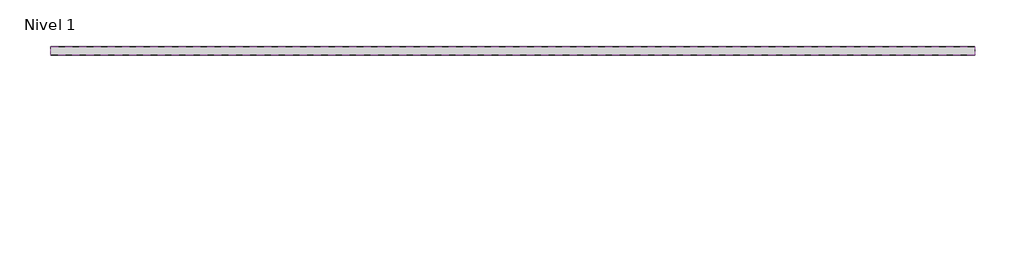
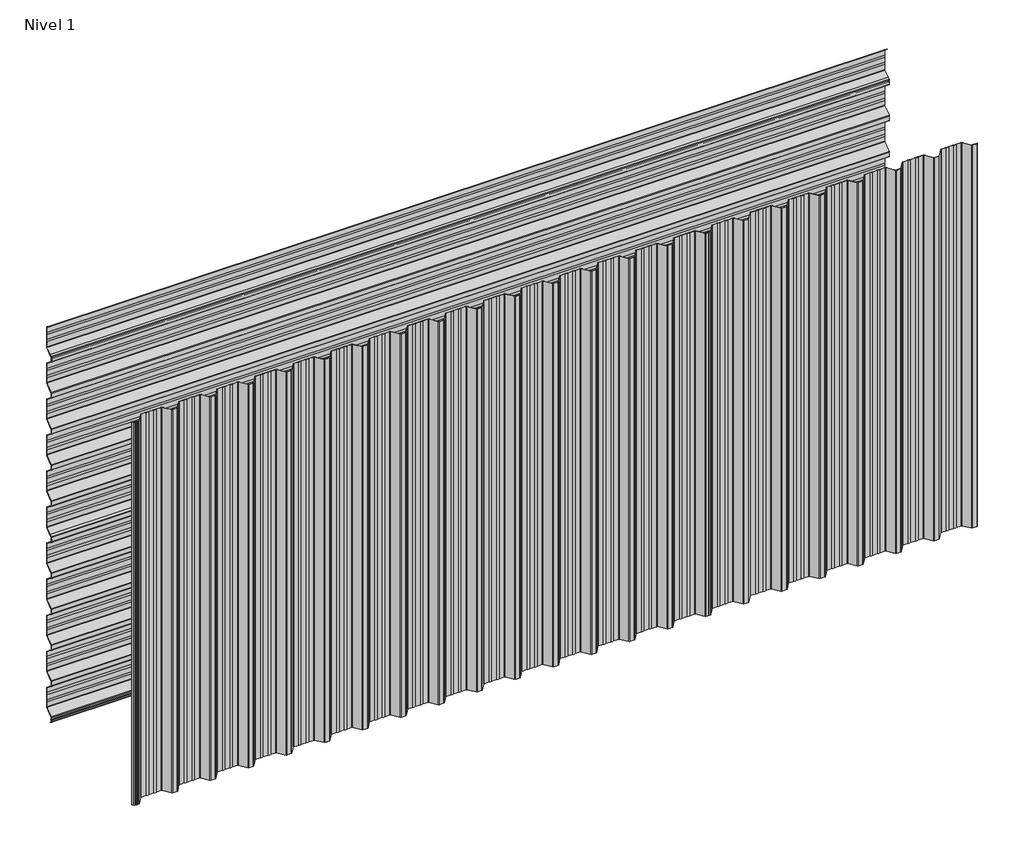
# One storey: 8 plates.
"""IFC4 building model written with IfcOpenShell, lengths in millimetres."""

from ifc_helpers import new_model, si_unit, origin, place, context, project, spatial, transform, mapped, element, save
from components import plate_37bc8b78, plate_5df026c1, plate_926300cb, plate_d732e31f

model = new_model("IFC4")

# Units and contexts
model_context = context("Model", 3, world=origin())
ifc_project = project(units=[si_unit("LENGTHUNIT", "METRE", prefix="MILLI")], contexts=[model_context])

# Site, building, storey
site = spatial("IfcSite", under=ifc_project)
building = spatial("IfcBuilding", under=site)
storey = spatial("IfcBuildingStorey", under=building, Name="Nivel 1", Elevation=0.0)

# Plates
placement = place(None, origin())
plate_shape = plate_37bc8b78(model_context)
element("IfcPlate", 1, ObjectType="HIANSA - H20.F09.004-CHAPA PERFILADA FACHADA VERTICAL - MT42 - Panel de Muro Cortina : -", at=placement, inside=storey, context=model_context, shape_type="MappedRepresentation", body=[
    mapped(plate_shape, transform((4768.1436702, 17658.0269271, 0.0), x_axis=(1.0, 0.0, 0.0), y_axis=(0.0, 1.0, 0.0), z_axis=(0.0, 0.0, 1.0))),
])
element("IfcPlate", 2, ObjectType="HIANSA - H20.F09.004-CHAPA PERFILADA FACHADA VERTICAL - MT42 - Panel de Muro Cortina : -", at=placement, inside=storey, context=model_context, shape_type="MappedRepresentation", body=[
    mapped(plate_shape, transform((6768.1436703, 17658.0269271, 0.0), x_axis=(1.0, 0.0, 0.0), y_axis=(0.0, 1.0, 0.0), z_axis=(0.0, 0.0, 1.0))),
])
element("IfcPlate", 3, ObjectType="HIANSA - H20.F09.004-CHAPA PERFILADA FACHADA VERTICAL - MT42 - Panel de Muro Cortina : -", at=placement, inside=storey, context=model_context, shape_type="MappedRepresentation", body=[
    mapped(plate_shape, transform((7768.1436703, 17658.0269271, 0.0), x_axis=(1.0, 0.0, 0.0), y_axis=(0.0, 1.0, 0.0), z_axis=(0.0, 0.0, 1.0))),
])
element("IfcPlate", 4, ObjectType="HIANSA - H20.F09.004-CHAPA PERFILADA FACHADA VERTICAL - MT42 - Panel de Muro Cortina : -", at=placement, inside=storey, context=model_context, shape_type="MappedRepresentation", body=[
    mapped(plate_shape, transform((5768.1436703, 17658.0269271, 0.0), x_axis=(1.0, 0.0, 0.0), y_axis=(0.0, 1.0, 0.0), z_axis=(0.0, 0.0, 1.0))),
])
plate_2_shape = plate_5df026c1(model_context)
element("IfcPlate", 5, ObjectType="HIANSA - H20.F09.004-CHAPA PERFILADA FACHADA VERTICAL - MT42 - Panel de Muro Cortina : -", at=placement, inside=storey, context=model_context, shape_type="MappedRepresentation", body=[
    mapped(plate_2_shape, transform((8468.1436702, 17658.0269271, 0.0), x_axis=(1.0, 0.0, 0.0), y_axis=(0.0, 1.0, 0.0), z_axis=(0.0, 0.0, 1.0))),
])
plate_3_shape = plate_926300cb(model_context)
element("IfcPlate", 6, ObjectType="HIANSA - H20.F09.004-CHAPA PERFILADA FACHADA HORIZONTAL - MT42 - Panel de Muro Cortina : -", at=placement, inside=storey, context=model_context, shape_type="MappedRepresentation", body=[
    mapped(plate_3_shape, transform((6468.14367, 18436.5269271, 0.0), x_axis=(1.0, 0.0, 0.0), y_axis=(0.0, 1.0, 0.0), z_axis=(0.0, 0.0, 1.0))),
])
element("IfcPlate", 7, ObjectType="HIANSA - H20.F09.004-CHAPA PERFILADA FACHADA HORIZONTAL - MT42 - Panel de Muro Cortina : -", at=placement, inside=storey, context=model_context, shape_type="MappedRepresentation", body=[
    mapped(plate_3_shape, transform((6468.14367, 18436.5269271, 1000.0), x_axis=(1.0, 0.0, 0.0), y_axis=(0.0, 1.0, 0.0), z_axis=(0.0, 0.0, 1.0))),
])
plate_4_shape = plate_d732e31f(model_context)
element("IfcPlate", 8, ObjectType="HIANSA - H20.F09.004-CHAPA PERFILADA FACHADA HORIZONTAL - MT42 - Panel de Muro Cortina : -", at=placement, inside=storey, context=model_context, shape_type="MappedRepresentation", body=[
    mapped(plate_4_shape, transform((6468.14367, 18436.5269271, 2000.0), x_axis=(1.0, 0.0, 0.0), y_axis=(0.0, 1.0, 0.0), z_axis=(0.0, 0.0, 1.0))),
])

save(model, "model.ifc")
